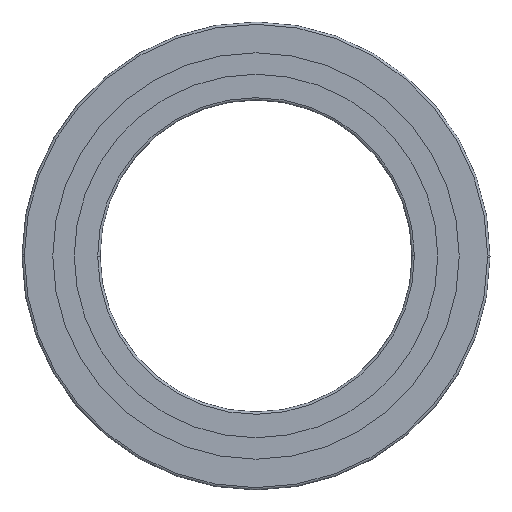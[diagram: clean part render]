
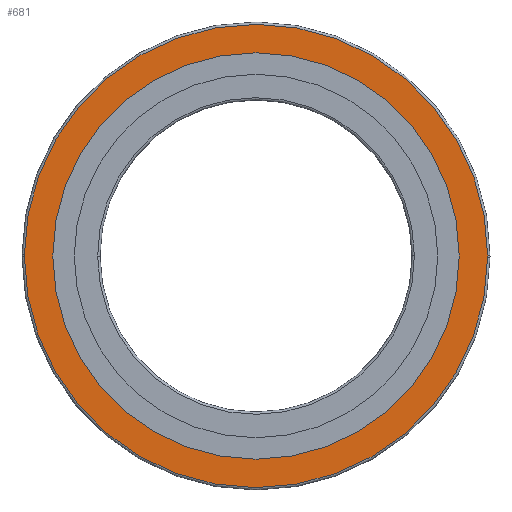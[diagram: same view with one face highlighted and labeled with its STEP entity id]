
A CAD part, front view. The second image highlights one B-rep face of the part: STEP entity #681.
In plain terms, the highlighted planar face has unit normal (0, -1, 0).
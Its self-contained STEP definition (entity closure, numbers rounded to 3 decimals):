
#321=VERTEX_POINT('',#859);
#337=EDGE_CURVE('',#761,#433,#876,.T.);
#387=VERTEX_POINT('',#935);
#419=EDGE_CURVE('',#433,#761,#972,.T.);
#425=EDGE_CURVE('',#387,#805,#980,.T.);
#433=VERTEX_POINT('',#989);
#529=EDGE_CURVE('',#321,#387,#1094,.T.);
#681=ADVANCED_FACE('',(#1266,#1267),#1268,.F.);
#699=VERTEX_POINT('',#1288);
#761=VERTEX_POINT('',#1358);
#795=EDGE_CURVE('',#699,#321,#1395,.T.);
#805=VERTEX_POINT('',#1405);
#809=EDGE_CURVE('',#805,#699,#1409,.T.);
#859=CARTESIAN_POINT('',(59.4,0.0,0.0));
#876=CIRCLE('',#1482,52.1);
#935=CARTESIAN_POINT('',(-59.399,0.0,0.367));
#972=CIRCLE('',#1597,52.1);
#980=CIRCLE('',#1607,59.4);
#989=CARTESIAN_POINT('',(52.1,0.0,0.0));
#1094=CIRCLE('',#1751,59.4);
#1266=FACE_OUTER_BOUND('',#1964,.T.);
#1267=FACE_BOUND('',#1965,.T.);
#1268=PLANE('',#1966);
#1288=CARTESIAN_POINT('',(59.399,0.0,-0.367));
#1358=CARTESIAN_POINT('',(-52.1,0.0,0.0));
#1395=CIRCLE('',#2122,59.4);
#1405=CARTESIAN_POINT('',(-59.4,0.0,0.0));
#1409=CIRCLE('',#2141,59.4);
#1482=AXIS2_PLACEMENT_3D('',#2185,#2186,#2187);
#1597=AXIS2_PLACEMENT_3D('',#2335,#2336,#2337);
#1607=AXIS2_PLACEMENT_3D('',#2351,#2352,#2353);
#1751=AXIS2_PLACEMENT_3D('',#2493,#2494,#2495);
#1964=EDGE_LOOP('',(#2736,#2737,#2738,#2739));
#1965=EDGE_LOOP('',(#2740,#2741));
#1966=AXIS2_PLACEMENT_3D('',#2742,#2743,#2744);
#2122=AXIS2_PLACEMENT_3D('',#2903,#2904,#2905);
#2141=AXIS2_PLACEMENT_3D('',#2918,#2919,#2920);
#2185=CARTESIAN_POINT('',(0.0,0.0,0.0));
#2186=DIRECTION('',(0.0,-1.0,0.0));
#2187=DIRECTION('',(-1.0,0.0,0.0));
#2335=CARTESIAN_POINT('',(0.0,0.0,0.0));
#2336=DIRECTION('',(0.0,-1.0,0.0));
#2337=DIRECTION('',(1.0,0.0,0.0));
#2351=CARTESIAN_POINT('',(0.0,0.0,0.0));
#2352=DIRECTION('',(0.0,-1.0,0.0));
#2353=DIRECTION('',(1.0,0.0,0.0));
#2493=CARTESIAN_POINT('',(0.0,0.0,0.0));
#2494=DIRECTION('',(0.0,-1.0,0.0));
#2495=DIRECTION('',(1.0,0.0,0.0));
#2736=ORIENTED_EDGE('',*,*,#529,.T.);
#2737=ORIENTED_EDGE('',*,*,#425,.T.);
#2738=ORIENTED_EDGE('',*,*,#809,.T.);
#2739=ORIENTED_EDGE('',*,*,#795,.T.);
#2740=ORIENTED_EDGE('',*,*,#337,.F.);
#2741=ORIENTED_EDGE('',*,*,#419,.F.);
#2742=CARTESIAN_POINT('',(0.0,0.0,0.0));
#2743=DIRECTION('',(0.0,1.0,0.0));
#2744=DIRECTION('',(1.0,0.0,-0.0));
#2903=CARTESIAN_POINT('',(0.0,0.0,0.0));
#2904=DIRECTION('',(0.0,-1.0,0.0));
#2905=DIRECTION('',(-1.0,0.0,0.0));
#2918=CARTESIAN_POINT('',(0.0,0.0,0.0));
#2919=DIRECTION('',(0.0,-1.0,0.0));
#2920=DIRECTION('',(-1.0,0.0,0.0));
